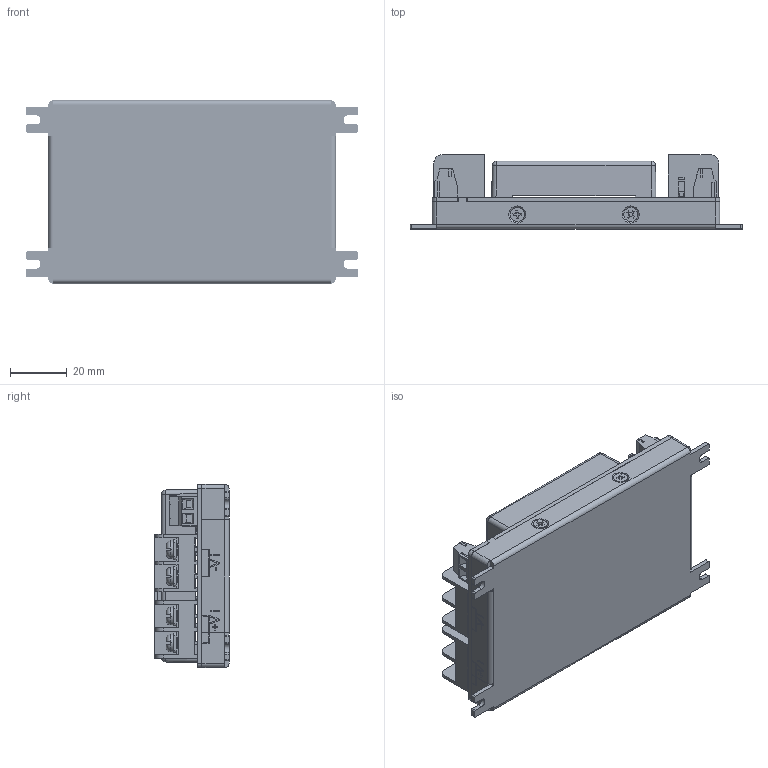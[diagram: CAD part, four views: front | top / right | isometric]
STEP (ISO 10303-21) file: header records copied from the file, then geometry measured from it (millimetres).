
FILE_DESCRIPTION (( 'STEP AP214' ), '1' );
FILE_NAME ('CHB100W-48S24-CM+(無散熱片)組合件-1070328.STEP', '2018-03-28T08:55:45', ( 'cincon' ), ( '' ), 'SwSTEP 2.0', 'SolidWorks 2008', '' );
FILE_SCHEMA (( 'AUTOMOTIVE_DESIGN' ));
Length unit declared in the file: millimetre
Products named in the file (16): CHB100W(G5122441513)990813; CHB100W內組件示意圖990813; 平頭十字螺絲 M3x5mm(M-H003-00-S)G75A1100662_預設; CHB  鋁板CASE-1020704_預設; CHB100W-48S24-CM+(無散熱片)組合件-1070328; PCB Terminal P9.5-2PIN; ELK508V-03P(DINKLE)-1000221; ELK508V-02P; CHB固定片L型-1020704_預設; CMJ-20ABL_預設; Header 2x2PIN; M3x10mm圓頭十字螺絲SMP+W; PCB Terminal P9.5-4PIN; CHB PCB-1020322_預設; CHB100W組合件 990813; CHB100W-48S24+MC092組合件-1050719_預設
Assembly tree (25 placements, depth 4):
  CHB100W-48S24-CM+(無散熱片)組合件-1070328
    平頭十字螺絲 M3x5mm(M-H003-00-S)G75A1100662_預設  x4
    CMJ-20ABL_預設  x2
    M3x10mm圓頭十字螺絲SMP+W  x4
    CHB固定片L型-1020704_預設  x2
    ELK508V-02P
    PCB Terminal P9.5-4PIN
    Header 2x2PIN  x2
    ELK508V-03P(DINKLE)-1000221
    CHB PCB-1020322_預設
    CHB  鋁板CASE-1020704_預設
    CHB100W-48S24+MC092組合件-1050719_預設
      CHB100W組合件 990813
        CHB100W內組件示意圖990813
        CHB100W(G5122441513)990813
    PCB Terminal P9.5-2PIN  x2
Bounding box: 117 x 26.2 x 64.6 mm (x, y, z)
Volume: 82764.4 mm3; surface area: 72034.5 mm2
Topology: 27 solids, 27 shells, 2309 faces, 6305 edges, 4136 vertices
Faces by surface type: plane 1322, cylinder 761, cone 98, bspline 82, torus 40, sphere 6
Entity records: 68676 total; most frequent: CARTESIAN_POINT 26681, ORIENTED_EDGE 9042, DIRECTION 7651, EDGE_CURVE 4521, VECTOR 3167, LINE 3167, VERTEX_POINT 2963, AXIS2_PLACEMENT_3D 2242
